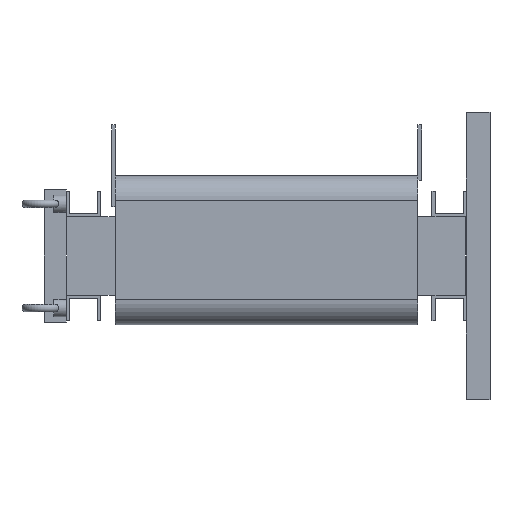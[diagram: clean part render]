
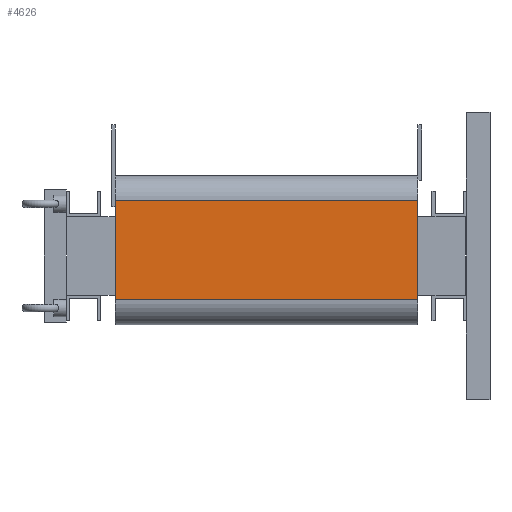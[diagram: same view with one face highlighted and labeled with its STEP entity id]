
A CAD part, left-side view. The second image highlights one B-rep face of the part: STEP entity #4626.
In plain terms, the highlighted planar face has unit normal (-1, 0, 0).
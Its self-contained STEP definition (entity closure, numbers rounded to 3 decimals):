
#445=LINE('',#7690,#977);
#465=LINE('',#7743,#997);
#466=LINE('',#7746,#998);
#467=LINE('',#7747,#999);
#977=VECTOR('',#6024,10.);
#997=VECTOR('',#6072,10.);
#998=VECTOR('',#6075,10.);
#999=VECTOR('',#6076,10.);
#1275=PLANE('',#4984);
#1586=FACE_OUTER_BOUND('',#1884,.T.);
#1884=EDGE_LOOP('',(#4165,#4166,#4167,#4168));
#2388=VERTEX_POINT('',#7687);
#2389=VERTEX_POINT('',#7689);
#2408=VERTEX_POINT('',#7741);
#2409=VERTEX_POINT('',#7745);
#2992=EDGE_CURVE('',#2388,#2389,#445,.T.);
#3020=EDGE_CURVE('',#2408,#2388,#465,.T.);
#3021=EDGE_CURVE('',#2408,#2409,#466,.T.);
#3022=EDGE_CURVE('',#2389,#2409,#467,.T.);
#4165=ORIENTED_EDGE('',*,*,#3020,.F.);
#4166=ORIENTED_EDGE('',*,*,#3021,.T.);
#4167=ORIENTED_EDGE('',*,*,#3022,.F.);
#4168=ORIENTED_EDGE('',*,*,#2992,.F.);
#4626=ADVANCED_FACE('',(#1586),#1275,.T.);
#4984=AXIS2_PLACEMENT_3D('',#7744,#6073,#6074);
#6024=DIRECTION('',(0.,0.,1.));
#6072=DIRECTION('',(0.,1.,0.));
#6073=DIRECTION('center_axis',(-1.,0.,0.));
#6074=DIRECTION('ref_axis',(0.,0.,1.));
#6075=DIRECTION('',(0.,0.,1.));
#6076=DIRECTION('',(0.,-1.,0.));
#7687=CARTESIAN_POINT('',(-277.,562.5,-70.));
#7689=CARTESIAN_POINT('',(-277.,562.5,89.));
#7690=CARTESIAN_POINT('',(-277.,562.5,-110.));
#7741=CARTESIAN_POINT('',(-277.,77.5,-70.));
#7743=CARTESIAN_POINT('',(-277.,77.5,-70.));
#7744=CARTESIAN_POINT('Origin',(-277.,77.5,-110.));
#7745=CARTESIAN_POINT('',(-277.,77.5,89.));
#7746=CARTESIAN_POINT('',(-277.,77.5,-110.));
#7747=CARTESIAN_POINT('',(-277.,77.5,89.));
